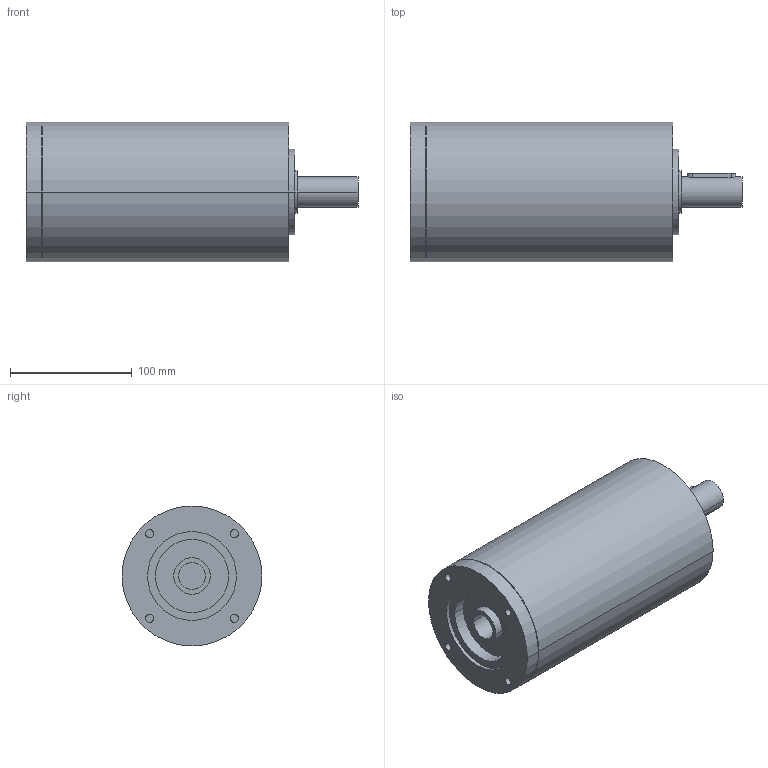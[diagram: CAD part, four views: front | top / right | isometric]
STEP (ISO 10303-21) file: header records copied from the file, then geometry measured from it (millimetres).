
FILE_DESCRIPTION(('CoCreate Modeling STEP Export'),'2;1');
FILE_NAME('GPR125_ig-48-64-80-100-140-196-245-343_25_B14_22_P04.stp','2014-08-26T14:22:04',(''),(''),'CoCreate Modeling STEP processor for AP214 (Solid Model)','CoCreate Modeling 16.00C 25-Feb-2009 (C) Parametric Technology GmbH','');
FILE_SCHEMA(('AUTOMOTIVE_DESIGN { 1 0 10303 214 1 1 1 1 }'));
Length unit declared in the file: millimetre
Products named in the file (2): GPR125_ig-48-64-80-100-140-196-245-343_25_B14_22_P04
Assembly tree (1 placements, depth 2):
  GPR125_ig-48-64-80-100-140-196-245-343_25_B14_22_P04
    GPR125_ig-48-64-80-100-140-196-245-343_25_B14_22_P04
Bounding box: 273 x 115 x 115 mm (x, y, z)
Volume: 2224786.6 mm3; surface area: 116087.3 mm2
Topology: 1 solids, 1 shells, 75 faces, 192 edges, 138 vertices
Faces by surface type: cylinder 46, plane 25, cone 4
Entity records: 1935 total; most frequent: ORIENTED_EDGE 380, CARTESIAN_POINT 359, DIRECTION 250, EDGE_CURVE 190, VERTEX_POINT 138, AXIS2_PLACEMENT_3D 97, EDGE_LOOP 96, FACE_OUTER_BOUND 75
